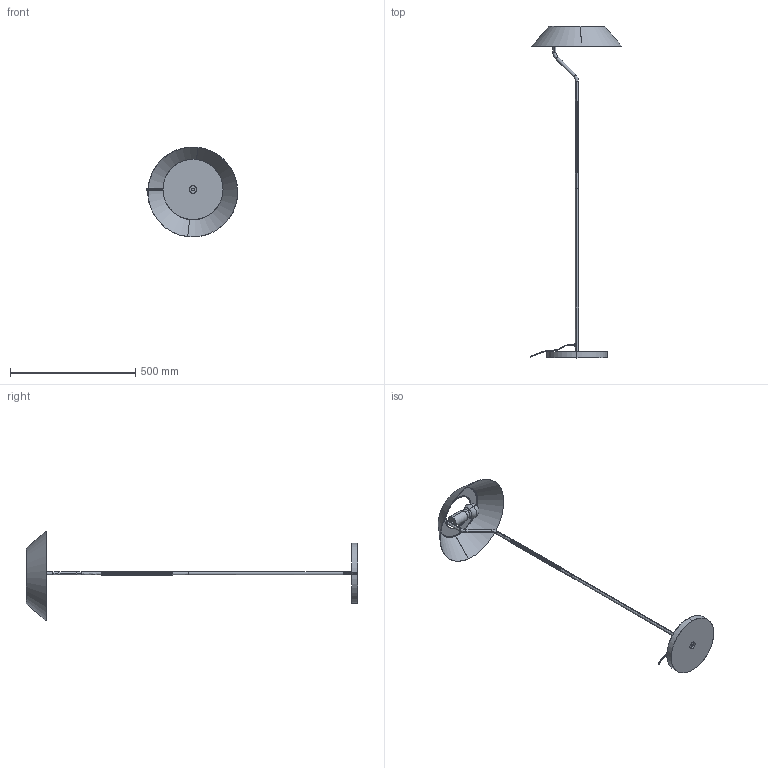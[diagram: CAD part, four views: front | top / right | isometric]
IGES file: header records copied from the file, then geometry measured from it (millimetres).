
Start section: SolidWorks IGES file using analytic representation for surfaces
Global section: file name: C:\Users\Agus\Downloads\P1287_AIDER.IGS; native system: SolidWorks 2018; preprocessor: SolidWorks 2018; author: Agus; date: 240124.155400; units: millimetre
Bounding box: 365.8 x 1325.99 x 359.35 mm (x, y, z)
Surface area: 473770.2 mm2 (no closed solid volume)
Topology: 0 solids, 0 shells, 422 faces, 12243 edges, 12241 vertices
Faces by surface type: revolution 322, bspline 100
